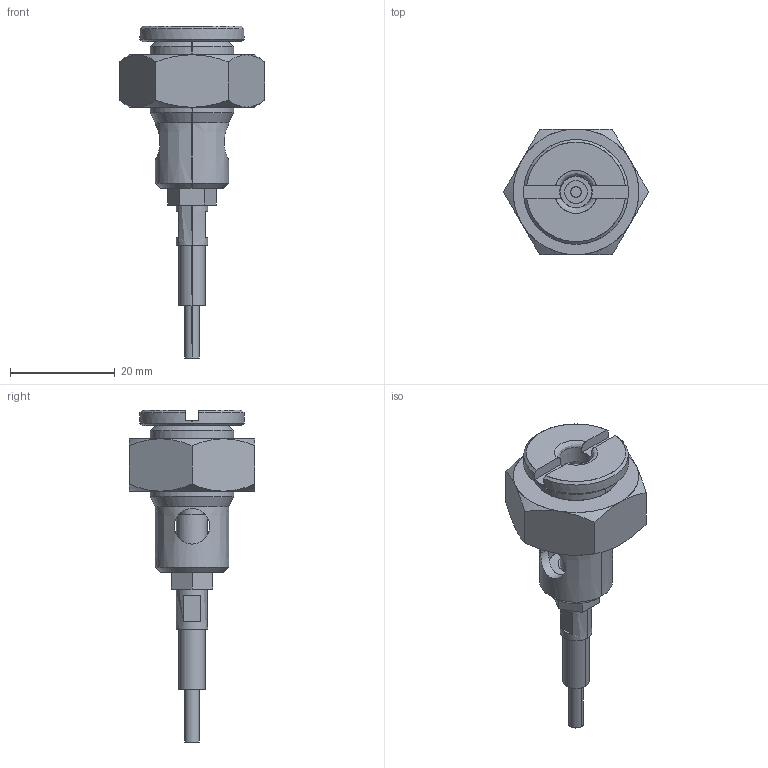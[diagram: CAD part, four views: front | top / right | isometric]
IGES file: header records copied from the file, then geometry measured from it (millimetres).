
Start section: SolidWorks IGES file using analytic representation for surfaces
Global section: file name: X:\11_SW2020-Inv2020\00_全2021-11新製品まで\q\QCWE0625-M16-S\qcwe0625-m16-s.IGS; native system: SolidWorks 2020; preprocessor: SolidWorks 2020; author: ImaoCorp; date: 211021.172744; units: millimetre
Bounding box: 27.71 x 24 x 63.4 mm (x, y, z)
Surface area: 5791.3 mm2 (no closed solid volume)
Topology: 0 solids, 0 shells, 104 faces, 1760 edges, 1760 vertices
Faces by surface type: revolution 62, bspline 42
